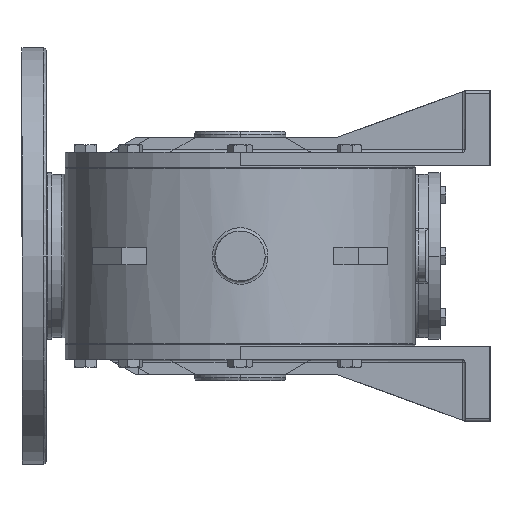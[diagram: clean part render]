
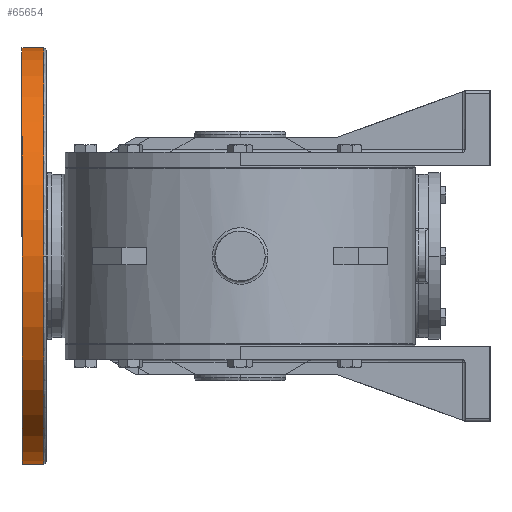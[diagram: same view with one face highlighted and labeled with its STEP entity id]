
A CAD part, front view. The second image highlights one B-rep face of the part: STEP entity #65654.
In plain terms, the highlighted cylindrical face has radius 125 mm (diameter 250 mm), a partial arc.
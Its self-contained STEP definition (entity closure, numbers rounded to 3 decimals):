
#5816 = DIRECTION ( 'NONE',  ( 0., 0., -1. ) ) ;
#5817 = DIRECTION ( 'NONE',  ( 1., 0., 0. ) ) ;
#5818 = CARTESIAN_POINT ( 'NONE',  ( -131., 90., 0. ) ) ;
#5819 = AXIS2_PLACEMENT_3D ( 'NONE', #5818, #5817, #5816 ) ;
#5820 = CIRCLE ( 'NONE', #5819, 125. ) ;
#7571 = DIRECTION ( 'NONE',  ( 0., 0., -1. ) ) ;
#7573 = DIRECTION ( 'NONE',  ( 1., 0., 0. ) ) ;
#7576 = CARTESIAN_POINT ( 'NONE',  ( -123.75, 90., 0. ) ) ;
#7578 = AXIS2_PLACEMENT_3D ( 'NONE', #7576, #7573, #7571 ) ;
#7581 = CYLINDRICAL_SURFACE ( 'NONE', #7578, 125. ) ;
#7583 = FACE_OUTER_BOUND ( 'NONE', #65495, .T. ) ;
#21870 = CIRCLE ( 'NONE', #21975, 125. ) ;
#21883 = CARTESIAN_POINT ( 'NONE',  ( -118., 90., 0. ) ) ;
#21975 = AXIS2_PLACEMENT_3D ( 'NONE', #21883, #21981, #21980 ) ;
#21980 = DIRECTION ( 'NONE',  ( 0., 1., 0. ) ) ;
#21981 = DIRECTION ( 'NONE',  ( 1., 0., 0. ) ) ;
#34805 = VERTEX_POINT ( 'NONE', #39235 ) ;
#34821 = VERTEX_POINT ( 'NONE', #39119 ) ;
#34822 = VERTEX_POINT ( 'NONE', #39118 ) ;
#34824 = EDGE_CURVE ( 'NONE', #34822, #34805, #39117, .T. ) ;
#34889 = EDGE_CURVE ( 'NONE', #34821, #76496, #39275, .T. ) ;
#39114 = DIRECTION ( 'NONE',  ( 1., 0., 0. ) ) ;
#39115 = VECTOR ( 'NONE', #39114, 1000. ) ;
#39116 = CARTESIAN_POINT ( 'NONE',  ( -123.75, 90., 125. ) ) ;
#39117 = LINE ( 'NONE', #39116, #39115 ) ;
#39118 = CARTESIAN_POINT ( 'NONE',  ( -131., 90., 125. ) ) ;
#39119 = CARTESIAN_POINT ( 'NONE',  ( -131., 90., -125. ) ) ;
#39235 = CARTESIAN_POINT ( 'NONE',  ( -118., 90., 125. ) ) ;
#39272 = DIRECTION ( 'NONE',  ( 1., 0., 0. ) ) ;
#39273 = VECTOR ( 'NONE', #39272, 1000. ) ;
#39274 = CARTESIAN_POINT ( 'NONE',  ( -123.75, 90., -125. ) ) ;
#39275 = LINE ( 'NONE', #39274, #39273 ) ;
#65425 = ORIENTED_EDGE ( 'NONE', *, *, #34889, .T. ) ;
#65426 = ORIENTED_EDGE ( 'NONE', *, *, #76468, .F. ) ;
#65442 = EDGE_CURVE ( 'NONE', #34822, #34821, #5820, .T. ) ;
#65493 = ORIENTED_EDGE ( 'NONE', *, *, #67835, .F. ) ;
#65495 = EDGE_LOOP ( 'NONE', ( #66125, #66123, #65425, #65426, #65493 ) ) ;
#65654 = ADVANCED_FACE ( 'NONE', ( #7583 ), #7581, .T. ) ;
#66123 = ORIENTED_EDGE ( 'NONE', *, *, #65442, .T. ) ;
#66125 = ORIENTED_EDGE ( 'NONE', *, *, #34824, .F. ) ;
#67835 = EDGE_CURVE ( 'NONE', #34805, #76494, #21870, .T. ) ;
#76468 = EDGE_CURVE ( 'NONE', #76494, #76496, #94942, .T. ) ;
#76494 = VERTEX_POINT ( 'NONE', #95502 ) ;
#76496 = VERTEX_POINT ( 'NONE', #95501 ) ;
#94938 = DIRECTION ( 'NONE',  ( 0., 1., 0. ) ) ;
#94939 = DIRECTION ( 'NONE',  ( 1., 0., 0. ) ) ;
#94940 = CARTESIAN_POINT ( 'NONE',  ( -118., 90., 0. ) ) ;
#94941 = AXIS2_PLACEMENT_3D ( 'NONE', #94940, #94939, #94938 ) ;
#94942 = CIRCLE ( 'NONE', #94941, 125. ) ;
#95501 = CARTESIAN_POINT ( 'NONE',  ( -118., 90., -125. ) ) ;
#95502 = CARTESIAN_POINT ( 'NONE',  ( -118., -35., 0. ) ) ;
